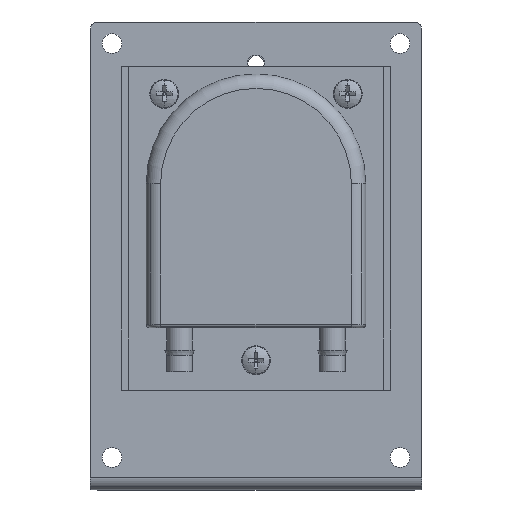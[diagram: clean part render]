
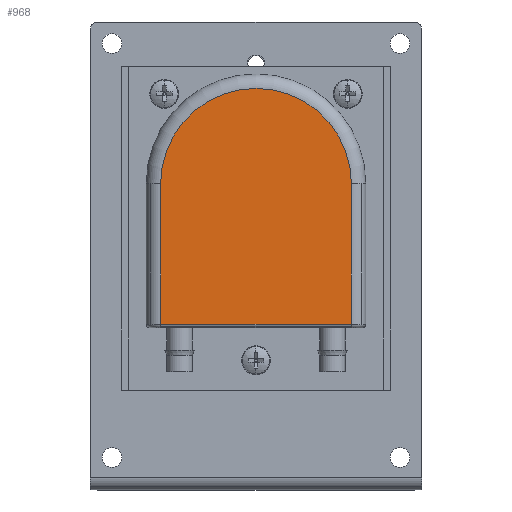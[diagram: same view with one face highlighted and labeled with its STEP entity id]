
A CAD part, top view. The second image highlights one B-rep face of the part: STEP entity #968.
In plain terms, the highlighted planar face has unit normal (0, 0, 1).
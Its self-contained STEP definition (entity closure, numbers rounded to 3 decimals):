
#968=ADVANCED_FACE('',(#1989),#1990,.F.);
#1989=FACE_OUTER_BOUND('',#3081,.T.);
#1990=PLANE('',#3082);
#3081=EDGE_LOOP('',(#5625,#5626,#5627,#5628));
#3082=AXIS2_PLACEMENT_3D('',#5629,#5630,#5631);
#5625=ORIENTED_EDGE('',*,*,#6653,.F.);
#5626=ORIENTED_EDGE('',*,*,#7116,.F.);
#5627=ORIENTED_EDGE('',*,*,#7108,.F.);
#5628=ORIENTED_EDGE('',*,*,#7198,.F.);
#5629=CARTESIAN_POINT('',(46.,65.0,35.7));
#5630=DIRECTION('',(0.,0.,-1.0));
#5631=DIRECTION('',(0.,-1.0,0.));
#6653=EDGE_CURVE('',#8109,#8111,#8112,.T.);
#7108=EDGE_CURVE('',#8747,#8749,#8750,.T.);
#7116=EDGE_CURVE('',#8749,#8109,#8758,.T.);
#7198=EDGE_CURVE('',#8111,#8747,#8854,.T.);
#8109=VERTEX_POINT('',#9954);
#8111=VERTEX_POINT('',#9956);
#8112=LINE('',#9957,#9958);
#8747=VERTEX_POINT('',#10778);
#8749=VERTEX_POINT('',#10780);
#8750=CIRCLE('',#10781,26.5);
#8758=LINE('',#10791,#10792);
#8854=LINE('',#10913,#10914);
#9954=CARTESIAN_POINT('',(72.5,46.,35.7));
#9956=CARTESIAN_POINT('',(19.5,46.,35.7));
#9957=CARTESIAN_POINT('',(46.,46.,35.7));
#9958=VECTOR('',#11850,1.0);
#10778=CARTESIAN_POINT('',(19.5,85.0,35.7));
#10780=CARTESIAN_POINT('',(72.5,85.0,35.7));
#10781=AXIS2_PLACEMENT_3D('',#12468,#12469,#12470);
#10791=CARTESIAN_POINT('',(72.5,65.0,35.7));
#10792=VECTOR('',#12476,1.0);
#10913=CARTESIAN_POINT('',(19.5,65.0,35.7));
#10914=VECTOR('',#12574,1.0);
#11850=DIRECTION('',(-1.0,0.,0.0));
#12468=CARTESIAN_POINT('',(46.0,85.0,35.7));
#12469=DIRECTION('',(0.,0.,-1.0));
#12470=DIRECTION('',(0.,1.0,0.));
#12476=DIRECTION('',(0.,-1.0,0.));
#12574=DIRECTION('',(0.,1.0,0.));
